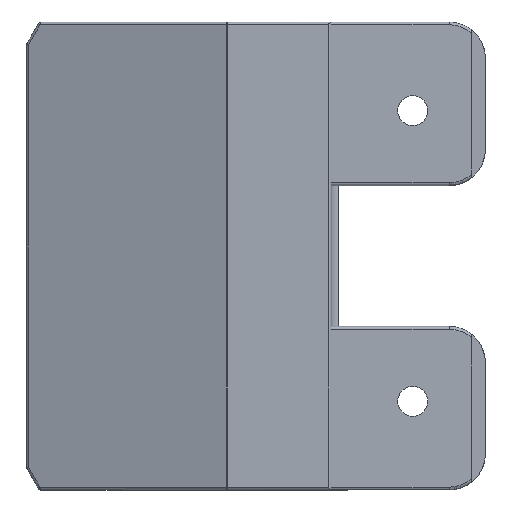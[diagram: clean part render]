
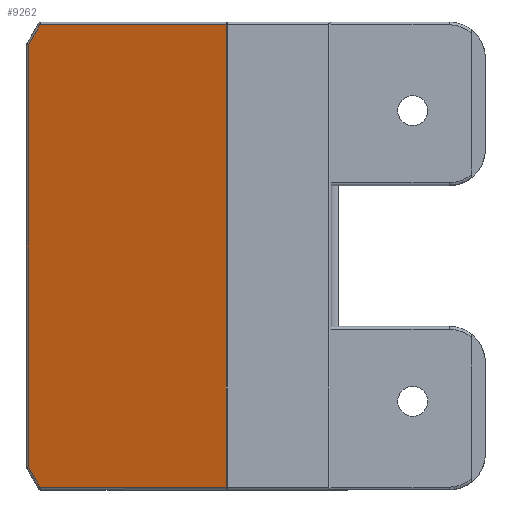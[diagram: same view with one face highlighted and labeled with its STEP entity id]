
A CAD part, top view. The second image highlights one B-rep face of the part: STEP entity #9262.
In plain terms, the highlighted planar face has unit normal (-0.321, 0, 0.947).
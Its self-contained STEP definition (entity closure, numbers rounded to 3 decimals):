
#836 = LINE ( 'NONE', #845, #4247 ) ;
#841 = LINE ( 'NONE', #843, #4252 ) ;
#843 = CARTESIAN_POINT ( 'NONE',  ( -3.476, -41.451, 12.5 ) ) ;
#844 = DIRECTION ( 'NONE',  ( 0.947, 0., 0.321 ) ) ;
#845 = CARTESIAN_POINT ( 'NONE',  ( -3.523, 44.369, 12.484 ) ) ;
#846 = DIRECTION ( 'NONE',  ( 0., 1., 0. ) ) ;
#847 = LINE ( 'NONE', #848, #4254 ) ;
#848 = CARTESIAN_POINT ( 'NONE',  ( -24.1, 9.449, 5.509 ) ) ;
#849 = DIRECTION ( 'NONE',  ( -0.947, 0., -0.321 ) ) ;
#850 = LINE ( 'NONE', #851, #4255 ) ;
#851 = CARTESIAN_POINT ( 'NONE',  ( -25.318, 7.231, 5.096 ) ) ;
#852 = DIRECTION ( 'NONE',  ( -0.497, -0.851, -0.168 ) ) ;
#853 = LINE ( 'NONE', #854, #4256 ) ;
#854 = CARTESIAN_POINT ( 'NONE',  ( -25.296, -39.351, 5.103 ) ) ;
#855 = DIRECTION ( 'NONE',  ( 0., -1., 0. ) ) ;
#856 = LINE ( 'NONE', #857, #4257 ) ;
#857 = CARTESIAN_POINT ( 'NONE',  ( -23.918, -41.633, 5.57 ) ) ;
#858 = DIRECTION ( 'NONE',  ( 0.497, -0.851, 0.168 ) ) ;
#1273 = AXIS2_PLACEMENT_3D ( 'NONE', #1366, #1376, #1377 ) ;
#1366 = CARTESIAN_POINT ( 'NONE',  ( -25.5, 44.369, 5.034 ) ) ;
#1374 = FACE_OUTER_BOUND ( 'NONE', #5442, .T. ) ;
#1375 = PLANE ( 'NONE',  #1273 ) ;
#1376 = DIRECTION ( 'NONE',  ( -0.321, 0., 0.947 ) ) ;
#1377 = DIRECTION ( 'NONE',  ( 0.947, 0., 0.321 ) ) ;
#2876 = CARTESIAN_POINT ( 'NONE',  ( -3.523, -41.451, 12.484 ) ) ;
#2877 = CARTESIAN_POINT ( 'NONE',  ( -24.024, -41.451, 5.534 ) ) ;
#2887 = CARTESIAN_POINT ( 'NONE',  ( -3.523, 9.449, 12.484 ) ) ;
#2888 = CARTESIAN_POINT ( 'NONE',  ( -24.024, 9.449, 5.534 ) ) ;
#2889 = CARTESIAN_POINT ( 'NONE',  ( -25.296, 7.268, 5.103 ) ) ;
#4247 = VECTOR ( 'NONE', #846, 1000. ) ;
#4252 = VECTOR ( 'NONE', #844, 1000. ) ;
#4254 = VECTOR ( 'NONE', #849, 1000. ) ;
#4255 = VECTOR ( 'NONE', #852, 1000. ) ;
#4256 = VECTOR ( 'NONE', #855, 1000. ) ;
#4257 = VECTOR ( 'NONE', #858, 1000. ) ;
#4937 = VERTEX_POINT ( 'NONE', #2876 ) ;
#4938 = VERTEX_POINT ( 'NONE', #2877 ) ;
#4948 = VERTEX_POINT ( 'NONE', #2887 ) ;
#4949 = VERTEX_POINT ( 'NONE', #2888 ) ;
#4950 = VERTEX_POINT ( 'NONE', #2889 ) ;
#5442 = EDGE_LOOP ( 'NONE', ( #6963, #6964, #6965, #6966, #6967, #6968 ) ) ;
#6753 = VERTEX_POINT ( 'NONE', #7828 ) ;
#6963 = ORIENTED_EDGE ( 'NONE', *, *, #9131, .T. ) ;
#6964 = ORIENTED_EDGE ( 'NONE', *, *, #9132, .T. ) ;
#6965 = ORIENTED_EDGE ( 'NONE', *, *, #9133, .T. ) ;
#6966 = ORIENTED_EDGE ( 'NONE', *, *, #9134, .T. ) ;
#6967 = ORIENTED_EDGE ( 'NONE', *, *, #9135, .T. ) ;
#6968 = ORIENTED_EDGE ( 'NONE', *, *, #9136, .T. ) ;
#7828 = CARTESIAN_POINT ( 'NONE',  ( -25.296, -39.27, 5.103 ) ) ;
#9131 = EDGE_CURVE ( 'NONE', #4938, #4937, #841, .T. ) ;
#9132 = EDGE_CURVE ( 'NONE', #4937, #4948, #836, .T. ) ;
#9133 = EDGE_CURVE ( 'NONE', #4948, #4949, #847, .T. ) ;
#9134 = EDGE_CURVE ( 'NONE', #4949, #4950, #850, .T. ) ;
#9135 = EDGE_CURVE ( 'NONE', #4950, #6753, #853, .T. ) ;
#9136 = EDGE_CURVE ( 'NONE', #6753, #4938, #856, .T. ) ;
#9262 = ADVANCED_FACE ( 'NONE', ( #1374 ), #1375, .T. ) ;
